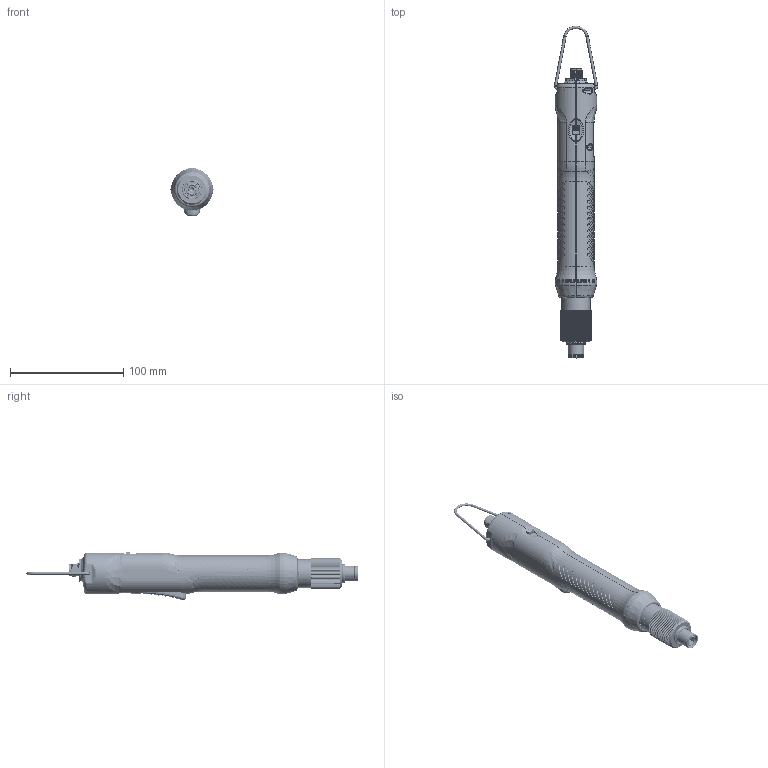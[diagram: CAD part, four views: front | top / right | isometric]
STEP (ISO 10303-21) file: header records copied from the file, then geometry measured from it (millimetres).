
FILE_DESCRIPTION (( 'STEP AP214' ), '1' );
FILE_NAME ('KBL 04-15FR.STEP', '2013-06-07T05:58:45', ( '' ), ( '' ), 'SwSTEP 2.0', 'SolidWorks 2013', '' );
FILE_SCHEMA (( 'AUTOMOTIVE_DESIGN' ));
Length unit declared in the file: millimetre
Products named in the file (1): KBL 04-15FR
Bounding box: 38.37 x 293.2 x 43.01 mm (x, y, z)
Surface area: 78979.7 mm2 (no closed solid volume)
Topology: 0 solids, 24 shells, 3124 faces, 8368 edges, 5384 vertices
Faces by surface type: cylinder 1568, plane 833, cone 258, bspline 230, torus 198, sphere 37
Entity records: 186869 total; most frequent: CARTESIAN_POINT 80482, ORIENTED_EDGE 16634, DIRECTION 13332, EDGE_CURVE 8321, VERTEX_POINT 5372, AXIS2_PLACEMENT_3D 5107, EDGE_LOOP 3290, UNCERTAINTY_MEASURE_WITH_UNIT 3149
